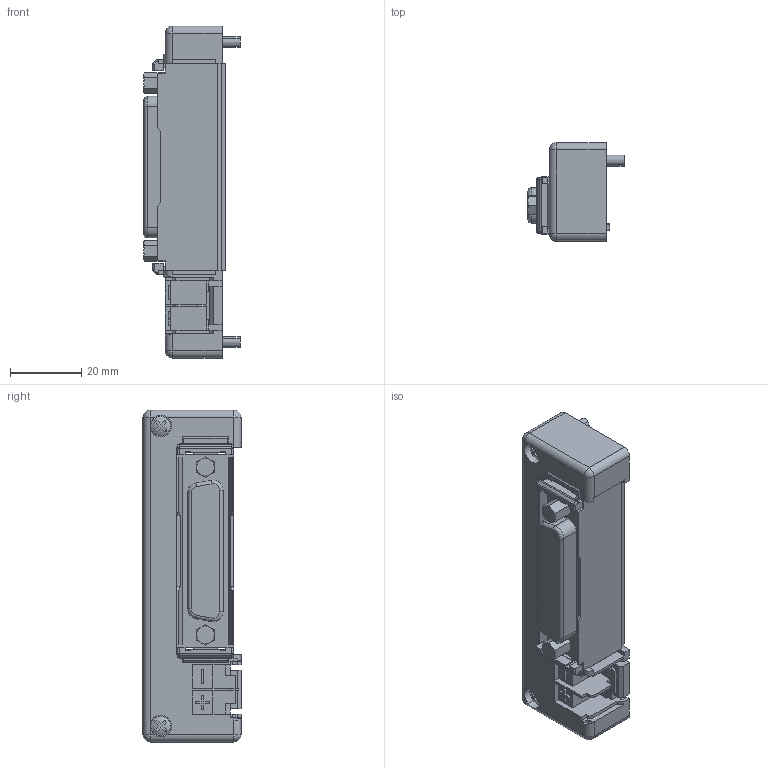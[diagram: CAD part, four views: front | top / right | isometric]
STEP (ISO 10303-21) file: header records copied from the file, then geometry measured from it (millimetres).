
FILE_DESCRIPTION( (''), '2;1');
FILE_NAME ('CVICAD46.7476.FZX-D2x0-E_31536.stp','2020-09-02T14:39:34',(''),(''),'spGate 12.6.6','','');
FILE_SCHEMA (('AUTOMOTIVE_DESIGN'));
Length unit declared in the file: millimetre
Products named in the file (3): Assembly; CVICAD46-prt0; CVICAD46-prt1
Assembly tree (2 placements, depth 2):
  Assembly
    CVICAD46-prt0
    CVICAD46-prt1
Bounding box: 27 x 27.5 x 93 mm (x, y, z)
Volume: 34570.5 mm3; surface area: 14506.6 mm2
Topology: 2 solids, 2 shells, 397 faces, 1136 edges, 728 vertices
Faces by surface type: plane 292, cylinder 68, bspline 21, sphere 16
Entity records: 21812 total; most frequent: CARTESIAN_POINT 2697, ORIENTED_EDGE 2248, DIRECTION 2040, COLOUR_RGB 1523, PRESENTATION_STYLE_ASSIGNMENT 1523, STYLED_ITEM 1523, EDGE_CURVE 1124, DRAUGHTING_PRE_DEFINED_CURVE_FONT 1124
